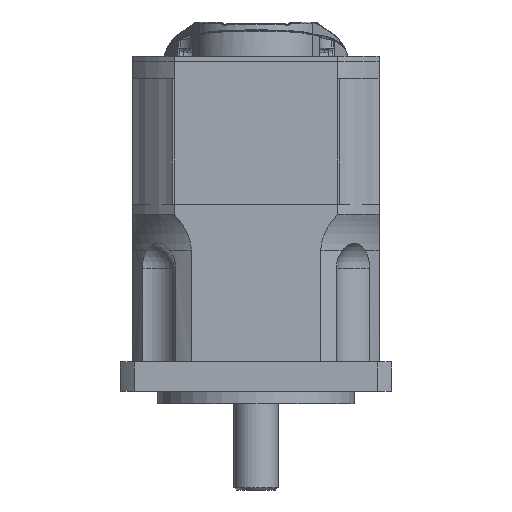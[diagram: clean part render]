
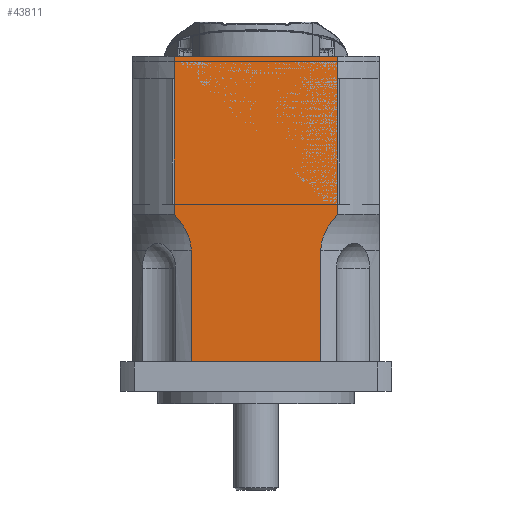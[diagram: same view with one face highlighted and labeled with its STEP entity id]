
A CAD part, front view. The second image highlights one B-rep face of the part: STEP entity #43811.
In plain terms, the highlighted planar face has unit normal (0, -1, 0).
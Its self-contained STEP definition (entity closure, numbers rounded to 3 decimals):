
#5368=B_SPLINE_CURVE_WITH_KNOTS('',3,(#56850,#56851,#56852,#56853,#56854,
#56855,#56856,#56857,#56858,#56859,#56860,#56861,#56862,#56863,#56864,#56865,
#56866,#56867,#56868,#56869,#56870,#56871),.UNSPECIFIED.,.F.,.U.,(4,3,3,
3,3,3,3,4),(5.429,5.565,5.647,5.688,
5.818,5.901,5.963,6.207),.UNSPECIFIED.);
#5369=B_SPLINE_CURVE_WITH_KNOTS('',3,(#56875,#56876,#56877,#56878,#56879,
#56880,#56881,#56882,#56883,#56884,#56885,#56886,#56887,#56888,#56889,#56890,
#56891,#56892,#56893,#56894,#56895,#56896),.UNSPECIFIED.,.F.,.U.,(4,3,3,
3,3,3,3,4),(4.651,4.908,4.973,5.136,
5.202,5.246,5.381,5.429),.UNSPECIFIED.);
#7272=LINE('',#56171,#51441);
#7322=LINE('',#56624,#51491);
#7325=LINE('',#56702,#51494);
#7339=LINE('',#56928,#51508);
#7342=LINE('',#56935,#51511);
#7343=LINE('',#56936,#51512);
#11358=VERTEX_POINT('',#56170);
#11359=VERTEX_POINT('',#56172);
#11433=VERTEX_POINT('',#56623);
#11434=VERTEX_POINT('',#56625);
#11439=VERTEX_POINT('',#56701);
#11456=VERTEX_POINT('',#56849);
#11457=VERTEX_POINT('',#56874);
#11458=VERTEX_POINT('',#56897);
#17667=EDGE_CURVE('',#11359,#11358,#7272,.T.);
#17763=EDGE_CURVE('',#11434,#11433,#7322,.T.);
#17772=EDGE_CURVE('',#11433,#11439,#7325,.T.);
#17798=EDGE_CURVE('',#11439,#11456,#5368,.T.);
#17800=EDGE_CURVE('',#11458,#11457,#5369,.T.);
#17806=EDGE_CURVE('',#11457,#11434,#7339,.T.);
#17809=EDGE_CURVE('',#11358,#11458,#7342,.T.);
#17810=EDGE_CURVE('',#11359,#11456,#7343,.T.);
#24715=ORIENTED_EDGE('',*,*,#17809,.T.);
#24716=ORIENTED_EDGE('',*,*,#17800,.T.);
#24717=ORIENTED_EDGE('',*,*,#17806,.T.);
#24718=ORIENTED_EDGE('',*,*,#17763,.T.);
#24719=ORIENTED_EDGE('',*,*,#17772,.T.);
#24720=ORIENTED_EDGE('',*,*,#17798,.T.);
#24721=ORIENTED_EDGE('',*,*,#17810,.F.);
#24722=ORIENTED_EDGE('',*,*,#17667,.T.);
#37244=EDGE_LOOP('',(#24715,#24716,#24717,#24718,#24719,#24720,#24721,#24722));
#40550=FACE_BOUND('',#37244,.T.);
#43811=ADVANCED_FACE('',(#40550),#53829,.T.);
#47159=AXIS2_PLACEMENT_3D('',#56934,#140183,$);
#51441=VECTOR('',#139945,1.);
#51491=VECTOR('',#140091,1.);
#51494=VECTOR('',#140106,1.);
#51508=VECTOR('',#140175,1.);
#51511=VECTOR('',#140184,1.);
#51512=VECTOR('',#140185,1.);
#53829=PLANE('',#47159);
#56170=CARTESIAN_POINT('',(-16.583,-25.,4.5));
#56171=CARTESIAN_POINT('',(16.583,-25.,4.5));
#56172=CARTESIAN_POINT('',(16.583,-25.,4.5));
#56623=CARTESIAN_POINT('',(13.155,-25.,-57.5));
#56624=CARTESIAN_POINT('',(-13.155,-25.,-57.5));
#56625=CARTESIAN_POINT('',(-13.155,-25.,-57.5));
#56701=CARTESIAN_POINT('',(13.155,-25.,-34.827));
#56702=CARTESIAN_POINT('',(13.155,-25.,-57.5));
#56849=CARTESIAN_POINT('',(16.583,-25.,-27.552));
#56850=CARTESIAN_POINT('',(13.155,-25.,-34.827));
#56851=CARTESIAN_POINT('',(13.155,-25.,-34.374));
#56852=CARTESIAN_POINT('',(13.201,-25.,-33.869));
#56853=CARTESIAN_POINT('',(13.295,-25.,-33.384));
#56854=CARTESIAN_POINT('',(13.351,-25.,-33.091));
#56855=CARTESIAN_POINT('',(13.424,-25.,-32.805));
#56856=CARTESIAN_POINT('',(13.505,-25.,-32.54));
#56857=CARTESIAN_POINT('',(13.545,-25.,-32.406));
#56858=CARTESIAN_POINT('',(13.588,-25.,-32.276));
#56859=CARTESIAN_POINT('',(13.636,-25.,-32.141));
#56860=CARTESIAN_POINT('',(13.787,-25.,-31.717));
#56861=CARTESIAN_POINT('',(13.98,-25.,-31.277));
#56862=CARTESIAN_POINT('',(14.198,-25.,-30.858));
#56863=CARTESIAN_POINT('',(14.337,-25.,-30.59));
#56864=CARTESIAN_POINT('',(14.485,-25.,-30.331));
#56865=CARTESIAN_POINT('',(14.634,-25.,-30.088));
#56866=CARTESIAN_POINT('',(14.746,-25.,-29.905));
#56867=CARTESIAN_POINT('',(14.858,-25.,-29.732));
#56868=CARTESIAN_POINT('',(14.978,-25.,-29.556));
#56869=CARTESIAN_POINT('',(15.441,-25.,-28.873));
#56870=CARTESIAN_POINT('',(15.987,-25.,-28.197));
#56871=CARTESIAN_POINT('',(16.583,-25.,-27.552));
#56874=CARTESIAN_POINT('',(-13.155,-25.,-34.827));
#56875=CARTESIAN_POINT('',(-16.583,-25.,-27.552));
#56876=CARTESIAN_POINT('',(-15.954,-25.,-28.233));
#56877=CARTESIAN_POINT('',(-15.381,-25.,-28.948));
#56878=CARTESIAN_POINT('',(-14.902,-25.,-29.669));
#56879=CARTESIAN_POINT('',(-14.78,-25.,-29.852));
#56880=CARTESIAN_POINT('',(-14.665,-25.,-30.034));
#56881=CARTESIAN_POINT('',(-14.548,-25.,-30.229));
#56882=CARTESIAN_POINT('',(-14.257,-25.,-30.718));
#56883=CARTESIAN_POINT('',(-13.977,-25.,-31.268));
#56884=CARTESIAN_POINT('',(-13.761,-25.,-31.809));
#56885=CARTESIAN_POINT('',(-13.675,-25.,-32.026));
#56886=CARTESIAN_POINT('',(-13.598,-25.,-32.242));
#56887=CARTESIAN_POINT('',(-13.532,-25.,-32.451));
#56888=CARTESIAN_POINT('',(-13.488,-25.,-32.591));
#56889=CARTESIAN_POINT('',(-13.446,-25.,-32.738));
#56890=CARTESIAN_POINT('',(-13.407,-25.,-32.889));
#56891=CARTESIAN_POINT('',(-13.287,-25.,-33.352));
#56892=CARTESIAN_POINT('',(-13.203,-25.,-33.857));
#56893=CARTESIAN_POINT('',(-13.171,-25.,-34.337));
#56894=CARTESIAN_POINT('',(-13.16,-25.,-34.505));
#56895=CARTESIAN_POINT('',(-13.155,-25.,-34.669));
#56896=CARTESIAN_POINT('',(-13.155,-25.,-34.827));
#56897=CARTESIAN_POINT('',(-16.583,-25.,-27.552));
#56928=CARTESIAN_POINT('',(-13.155,-25.,-34.827));
#56934=CARTESIAN_POINT('',(16.583,-25.,0.));
#56935=CARTESIAN_POINT('',(-16.583,-25.,-25.5));
#56936=CARTESIAN_POINT('',(16.583,-25.,-25.5));
#139945=DIRECTION('',(-1.,0.,0.));
#140091=DIRECTION('',(1.,0.,0.));
#140106=DIRECTION('',(0.,0.,1.));
#140175=DIRECTION('',(0.,0.,-1.));
#140183=DIRECTION('',(0.,-1.,0.));
#140184=DIRECTION('',(0.,0.,-1.));
#140185=DIRECTION('',(0.,0.,-1.));
